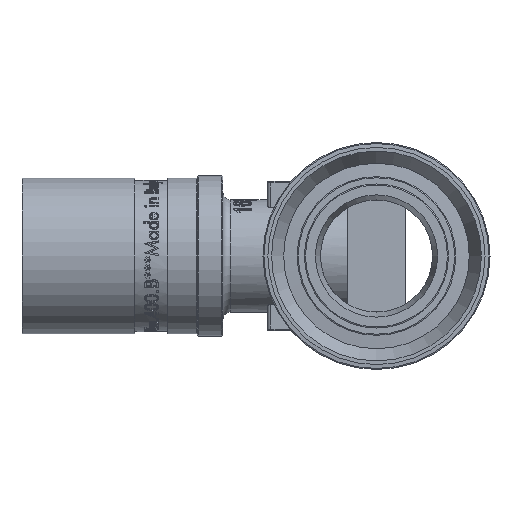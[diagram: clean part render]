
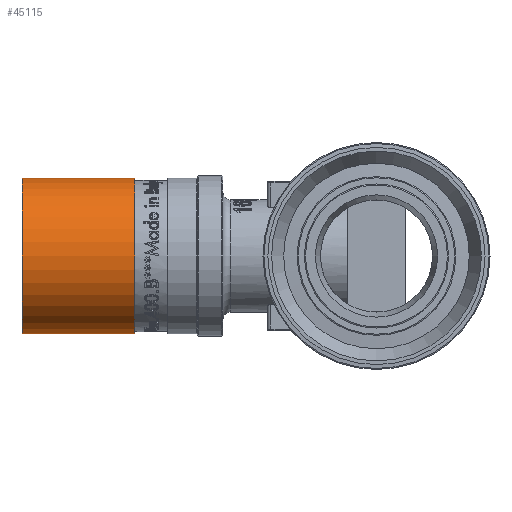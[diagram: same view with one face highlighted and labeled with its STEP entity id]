
A CAD part, left-side view. The second image highlights one B-rep face of the part: STEP entity #45115.
In plain terms, the highlighted cylindrical face has radius 10.7 mm (diameter 21.4 mm), a full revolution.
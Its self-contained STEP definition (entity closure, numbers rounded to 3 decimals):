
#6270=FACE_OUTER_BOUND('',#8929,.T.);
#8929=EDGE_LOOP('',(#35779,#35780,#35781,#35782,#35783,#35784));
#12033=LINE('',#78439,#15140);
#15140=VECTOR('',#52533,10.7);
#17117=CIRCLE('',#47515,10.7);
#17118=CIRCLE('',#47516,10.7);
#17119=CIRCLE('',#47518,10.7);
#17120=CIRCLE('',#47519,10.7);
#20048=VERTEX_POINT('',#78430);
#20049=VERTEX_POINT('',#78431);
#20050=VERTEX_POINT('',#78435);
#20051=VERTEX_POINT('',#78436);
#25775=EDGE_CURVE('',#20048,#20049,#17117,.T.);
#25776=EDGE_CURVE('',#20049,#20048,#17118,.T.);
#25777=EDGE_CURVE('',#20050,#20051,#17119,.T.);
#25778=EDGE_CURVE('',#20051,#20050,#17120,.T.);
#25779=EDGE_CURVE('',#20051,#20049,#12033,.T.);
#35779=ORIENTED_EDGE('',*,*,#25777,.F.);
#35780=ORIENTED_EDGE('',*,*,#25778,.F.);
#35781=ORIENTED_EDGE('',*,*,#25779,.T.);
#35782=ORIENTED_EDGE('',*,*,#25776,.T.);
#35783=ORIENTED_EDGE('',*,*,#25775,.T.);
#35784=ORIENTED_EDGE('',*,*,#25779,.F.);
#43815=CYLINDRICAL_SURFACE('',#47517,10.7);
#45115=ADVANCED_FACE('',(#6270),#43815,.T.);
#47515=AXIS2_PLACEMENT_3D('',#78432,#52523,#52524);
#47516=AXIS2_PLACEMENT_3D('',#78433,#52525,#52526);
#47517=AXIS2_PLACEMENT_3D('',#78434,#52527,#52528);
#47518=AXIS2_PLACEMENT_3D('',#78437,#52529,#52530);
#47519=AXIS2_PLACEMENT_3D('',#78438,#52531,#52532);
#52523=DIRECTION('center_axis',(0.,1.,0.));
#52524=DIRECTION('ref_axis',(1.,0.,0.));
#52525=DIRECTION('center_axis',(0.,1.,0.));
#52526=DIRECTION('ref_axis',(1.,0.,0.));
#52527=DIRECTION('center_axis',(0.,1.,0.));
#52528=DIRECTION('ref_axis',(-1.,0.,0.));
#52529=DIRECTION('center_axis',(0.,1.,0.));
#52530=DIRECTION('ref_axis',(1.,0.,0.));
#52531=DIRECTION('center_axis',(0.,1.,0.));
#52532=DIRECTION('ref_axis',(1.,0.,0.));
#52533=DIRECTION('',(0.,-1.,0.));
#78430=CARTESIAN_POINT('',(-10.7,33.212,0.));
#78431=CARTESIAN_POINT('',(10.7,33.212,0.));
#78432=CARTESIAN_POINT('Origin',(0.,33.212,0.));
#78433=CARTESIAN_POINT('Origin',(0.,33.212,0.));
#78434=CARTESIAN_POINT('Origin',(0.,40.962,0.));
#78435=CARTESIAN_POINT('',(-10.7,48.712,0.));
#78436=CARTESIAN_POINT('',(10.7,48.712,0.));
#78437=CARTESIAN_POINT('Origin',(0.,48.712,0.));
#78438=CARTESIAN_POINT('Origin',(0.,48.712,0.));
#78439=CARTESIAN_POINT('',(10.7,40.962,0.));
